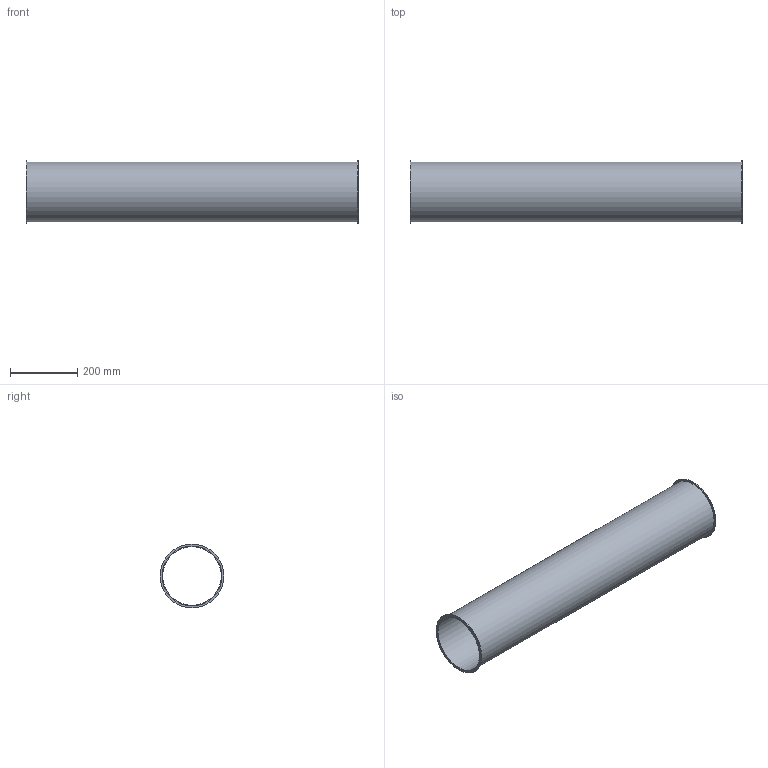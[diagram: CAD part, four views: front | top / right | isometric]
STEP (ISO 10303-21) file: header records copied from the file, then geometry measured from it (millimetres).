
FILE_DESCRIPTION((''),'2;1');
FILE_NAME('U:\Wolfgang\Marcel-3D\fertig\Kapitel 1\1721002.stp','2010-05-31T11:13:56',('TK2'),(''),'Autodesk Inventor 2010','Autodesk Inventor 2010','');
FILE_SCHEMA(('AUTOMOTIVE_DESIGN { 1 0 10303 214 1 1 1 1 }'));
Length unit declared in the file: millimetre
Products named in the file (1): 1721002
Bounding box: 986 x 190 x 190 mm (x, y, z)
Volume: 1104232.1 mm3; surface area: 1106594.6 mm2
Topology: 1 solids, 1 shells, 8 faces, 12 edges, 8 vertices
Faces by surface type: cylinder 4, plane 4
Full cylindrical faces by diameter (mm): 174 x1, 178 x1, 190 x2
Entity records: 194 total; most frequent: DIRECTION 34, CARTESIAN_POINT 25, AXIS2_PLACEMENT_3D 17, ORIENTED_EDGE 16, EDGE_LOOP 16, VERTEX_POINT 8, CIRCLE 8, EDGE_CURVE 8
